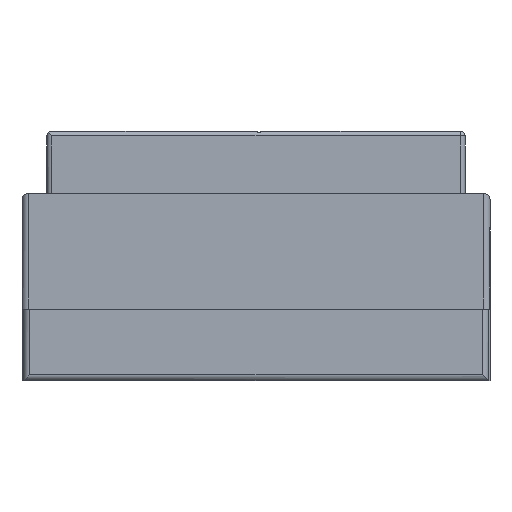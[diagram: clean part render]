
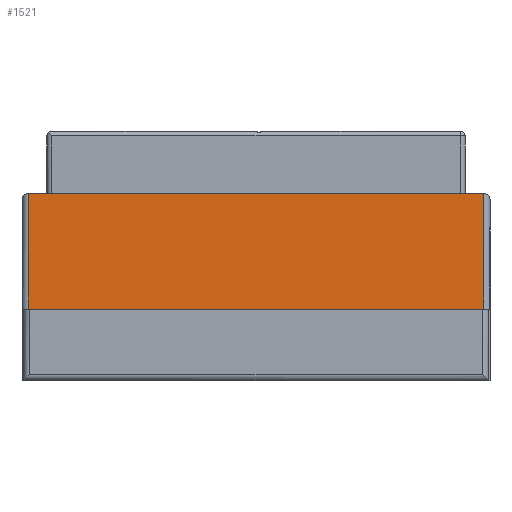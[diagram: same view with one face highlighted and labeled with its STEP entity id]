
A CAD part, front view. The second image highlights one B-rep face of the part: STEP entity #1521.
In plain terms, the highlighted planar face has unit normal (0, -1, 0).
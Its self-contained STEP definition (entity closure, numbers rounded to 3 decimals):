
#108 = CARTESIAN_POINT ( 'NONE',  ( 7.3, -17.25, 2.3 ) ) ;
#238 = LINE ( 'NONE', #1152, #1779 ) ;
#255 = EDGE_CURVE ( 'NONE', #1556, #677, #797, .T. ) ;
#287 = CARTESIAN_POINT ( 'NONE',  ( -7.5, -17.25, 6. ) ) ;
#322 = EDGE_CURVE ( 'NONE', #358, #677, #373, .T. ) ;
#327 = CARTESIAN_POINT ( 'NONE',  ( -7.3, -17.25, 6. ) ) ;
#349 = EDGE_LOOP ( 'NONE', ( #1244, #885, #370, #1369 ) ) ;
#358 = VERTEX_POINT ( 'NONE', #108 ) ;
#360 = VERTEX_POINT ( 'NONE', #980 ) ;
#370 = ORIENTED_EDGE ( 'NONE', *, *, #322, .F. ) ;
#373 = LINE ( 'NONE', #1418, #979 ) ;
#420 = DIRECTION ( 'NONE',  ( 0., 1., 0. ) ) ;
#441 = PLANE ( 'NONE',  #620 ) ;
#444 = VECTOR ( 'NONE', #1805, 1000. ) ;
#555 = EDGE_CURVE ( 'NONE', #358, #360, #238, .T. ) ;
#620 = AXIS2_PLACEMENT_3D ( 'NONE', #287, #420, #1325 ) ;
#646 = DIRECTION ( 'NONE',  ( -1., 0., 0. ) ) ;
#677 = VERTEX_POINT ( 'NONE', #1633 ) ;
#797 = LINE ( 'NONE', #327, #1089 ) ;
#885 = ORIENTED_EDGE ( 'NONE', *, *, #255, .T. ) ;
#979 = VECTOR ( 'NONE', #646, 1000. ) ;
#980 = CARTESIAN_POINT ( 'NONE',  ( 7.3, -17.25, 6. ) ) ;
#1089 = VECTOR ( 'NONE', #1207, 1000. ) ;
#1097 = FACE_OUTER_BOUND ( 'NONE', #349, .T. ) ;
#1152 = CARTESIAN_POINT ( 'NONE',  ( 7.3, -17.25, 6. ) ) ;
#1164 = CARTESIAN_POINT ( 'NONE',  ( -7.3, -17.25, 6. ) ) ;
#1207 = DIRECTION ( 'NONE',  ( 0., 0., -1. ) ) ;
#1244 = ORIENTED_EDGE ( 'NONE', *, *, #1630, .F. ) ;
#1325 = DIRECTION ( 'NONE',  ( 0., 0., 1. ) ) ;
#1369 = ORIENTED_EDGE ( 'NONE', *, *, #555, .T. ) ;
#1373 = CARTESIAN_POINT ( 'NONE',  ( -7.5, -17.25, 6. ) ) ;
#1418 = CARTESIAN_POINT ( 'NONE',  ( -7.5, -17.25, 2.3 ) ) ;
#1521 = ADVANCED_FACE ( 'NONE', ( #1097 ), #441, .F. ) ;
#1556 = VERTEX_POINT ( 'NONE', #1164 ) ;
#1558 = LINE ( 'NONE', #1373, #444 ) ;
#1630 = EDGE_CURVE ( 'NONE', #1556, #360, #1558, .T. ) ;
#1633 = CARTESIAN_POINT ( 'NONE',  ( -7.3, -17.25, 2.3 ) ) ;
#1767 = DIRECTION ( 'NONE',  ( 0., 0., 1. ) ) ;
#1779 = VECTOR ( 'NONE', #1767, 1000. ) ;
#1805 = DIRECTION ( 'NONE',  ( 1., 0., 0. ) ) ;
